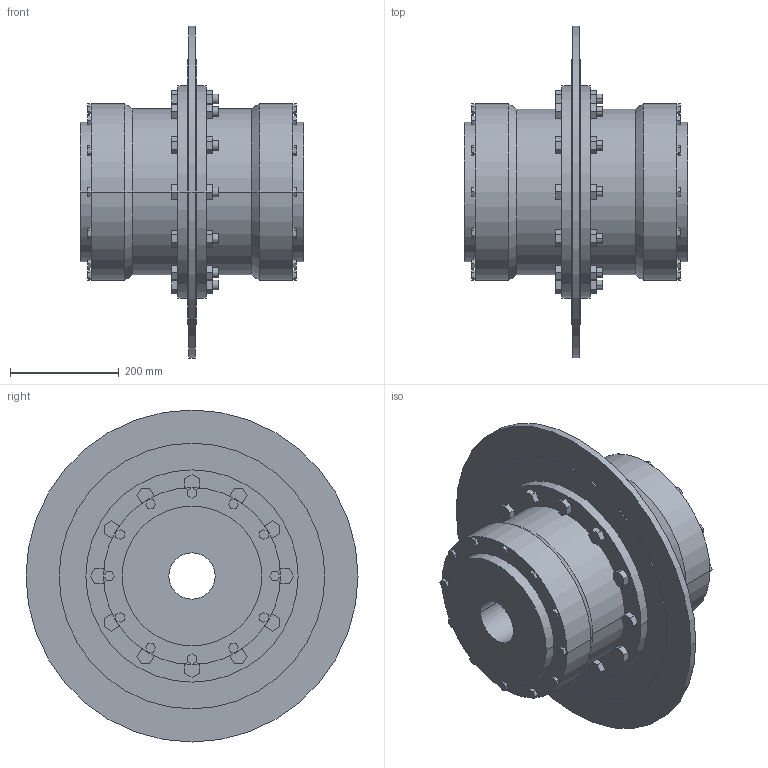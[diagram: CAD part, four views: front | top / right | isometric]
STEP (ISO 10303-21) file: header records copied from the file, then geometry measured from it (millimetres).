
FILE_DESCRIPTION((''),'2;1');
FILE_NAME('A19730700-0_ASM','2019-05-23T',('AB_Roschiwal'),('RENK AG'),'PRO/ENGINEER BY PARAMETRIC TECHNOLOGY CORPORATION, 2015440','PRO/ENGINEER BY PARAMETRIC TECHNOLOGY CORPORATION, 2015440','');
FILE_SCHEMA(('CONFIG_CONTROL_DESIGN'));
Length unit declared in the file: millimetre
Products named in the file (4): SBKT160_GEHAEUSE; SBKT160_NABE; SBKT160_BREMSSCHEIBE; A19730700-0_ASM
Assembly tree (4 placements, depth 2):
  A19730700-0_ASM
    SBKT160_GEHAEUSE
    SBKT160_NABE  x2
    SBKT160_BREMSSCHEIBE
Bounding box: 411 x 610 x 610 mm (x, y, z)
Volume: 29760776 mm3; surface area: 2125740.8 mm2
Topology: 4 solids, 4 shells, 470 faces, 1156 edges, 768 vertices
Faces by surface type: plane 370, cylinder 96, cone 4
Entity records: 13604 total; most frequent: CARTESIAN_POINT 2350, ORIENTED_EDGE 2264, DIRECTION 2240, EDGE_CURVE 1132, VECTOR 956, LINE 956, VERTEX_POINT 752, AXIS2_PLACEMENT_3D 642
